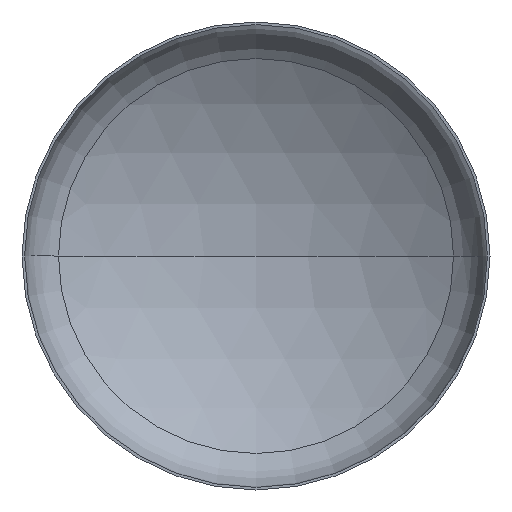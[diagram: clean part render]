
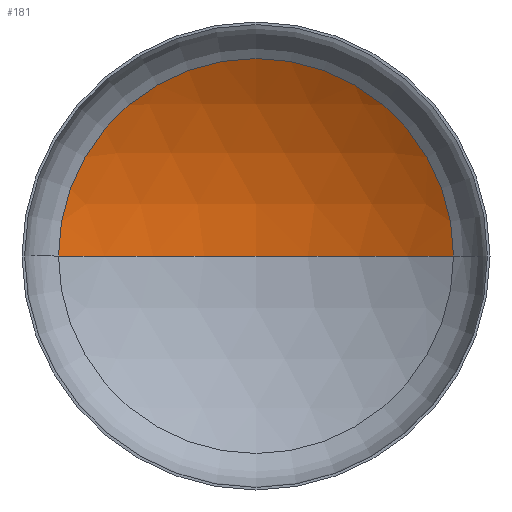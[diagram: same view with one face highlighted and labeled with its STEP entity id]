
A CAD part, front view. The second image highlights one B-rep face of the part: STEP entity #181.
In plain terms, the highlighted spherical face has radius 1280 mm.
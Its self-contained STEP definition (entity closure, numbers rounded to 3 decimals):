
#2 = CARTESIAN_POINT ( 'NONE',  ( 0., -849.266, 0. ) ) ;
#11 = AXIS2_PLACEMENT_3D ( 'NONE', #410, #270, #109 ) ;
#18 = AXIS2_PLACEMENT_3D ( 'NONE', #150, #322, #169 ) ;
#30 = ORIENTED_EDGE ( 'NONE', *, *, #370, .T. ) ;
#32 = VERTEX_POINT ( 'NONE', #306 ) ;
#35 = ORIENTED_EDGE ( 'NONE', *, *, #361, .F. ) ;
#38 = AXIS2_PLACEMENT_3D ( 'NONE', #243, #409, #268 ) ;
#60 = ORIENTED_EDGE ( 'NONE', *, *, #360, .T. ) ;
#66 = EDGE_LOOP ( 'NONE', ( #35, #60, #30 ) ) ;
#73 = VERTEX_POINT ( 'NONE', #226 ) ;
#109 = DIRECTION ( 'NONE',  ( 1., 0., 0. ) ) ;
#119 = AXIS2_PLACEMENT_3D ( 'NONE', #2, #163, #183 ) ;
#120 = CIRCLE ( 'NONE', #18, 1280. ) ;
#127 = VERTEX_POINT ( 'NONE', #337 ) ;
#150 = CARTESIAN_POINT ( 'NONE',  ( 0., -849.266, 0. ) ) ;
#163 = DIRECTION ( 'NONE',  ( 0., 0., -1. ) ) ;
#165 = SPHERICAL_SURFACE ( 'NONE', #119, 1280. ) ;
#169 = DIRECTION ( 'NONE',  ( 1., 0., 0. ) ) ;
#181 = ADVANCED_FACE ( 'NONE', ( #227 ), #165, .F. ) ;
#183 = DIRECTION ( 'NONE',  ( -1., 0., 0. ) ) ;
#226 = CARTESIAN_POINT ( 'NONE',  ( 675.246, 238.135, 0. ) ) ;
#227 = FACE_OUTER_BOUND ( 'NONE', #66, .T. ) ;
#243 = CARTESIAN_POINT ( 'NONE',  ( 0., -849.266, 0. ) ) ;
#259 = CIRCLE ( 'NONE', #38, 1280. ) ;
#268 = DIRECTION ( 'NONE',  ( -1., 0., 0. ) ) ;
#270 = DIRECTION ( 'NONE',  ( 0., -1., 0. ) ) ;
#306 = CARTESIAN_POINT ( 'NONE',  ( 0., 430.734, 0. ) ) ;
#322 = DIRECTION ( 'NONE',  ( 0., 0., 1. ) ) ;
#337 = CARTESIAN_POINT ( 'NONE',  ( -675.246, 238.135, 0. ) ) ;
#360 = EDGE_CURVE ( 'NONE', #32, #73, #259, .T. ) ;
#361 = EDGE_CURVE ( 'NONE', #32, #127, #120, .T. ) ;
#370 = EDGE_CURVE ( 'NONE', #73, #127, #379, .T. ) ;
#379 = CIRCLE ( 'NONE', #11, 675.246 ) ;
#409 = DIRECTION ( 'NONE',  ( 0., 0., -1. ) ) ;
#410 = CARTESIAN_POINT ( 'NONE',  ( 0., 238.135, 0. ) ) ;
